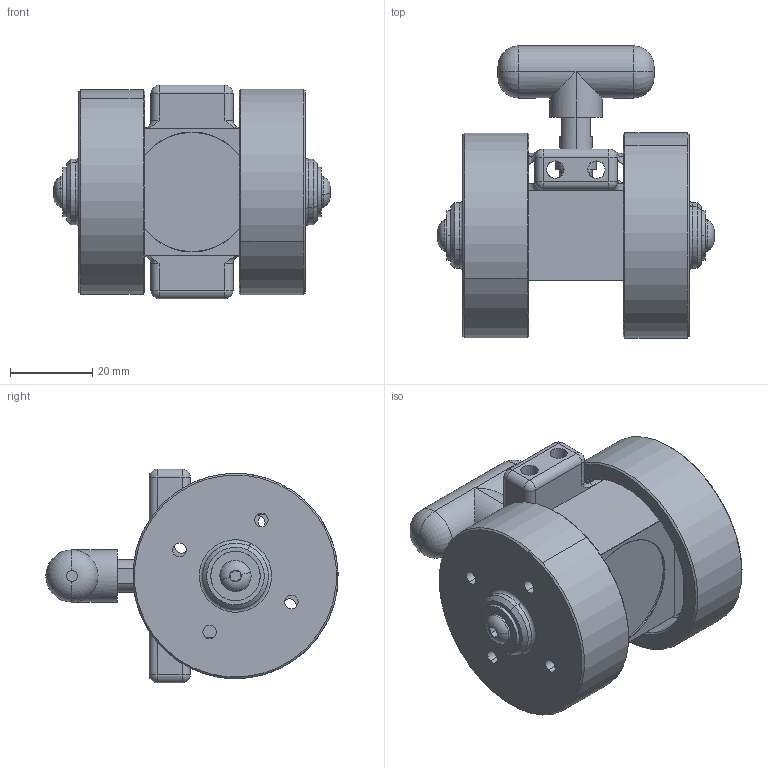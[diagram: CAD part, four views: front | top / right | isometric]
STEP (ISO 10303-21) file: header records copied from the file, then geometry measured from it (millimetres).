
FILE_DESCRIPTION (( 'STEP AP203' ), '1' );
FILE_NAME ('8000074_p.STEP', '2013-10-02T21:11:36', ( '' ), ( '' ), 'SwSTEP 2.0', 'SolidWorks 2010', '' );
FILE_SCHEMA (( 'CONFIG_CONTROL_DESIGN' ));
Length unit declared in the file: millimetre
Products named in the file (1): 8000074_p
Bounding box: 67.19 x 71.14 x 52 mm (x, y, z)
Surface area: 25955.5 mm2 (no closed solid volume)
Topology: 0 solids, 16 shells, 227 faces, 658 edges, 435 vertices
Faces by surface type: cylinder 88, plane 56, cone 36, torus 27, bspline 12, sphere 8
Entity records: 9051 total; most frequent: CARTESIAN_POINT 3041, DIRECTION 1323, ORIENTED_EDGE 1106, EDGE_CURVE 650, AXIS2_PLACEMENT_3D 551, VERTEX_POINT 435, CIRCLE 335, EDGE_LOOP 268
